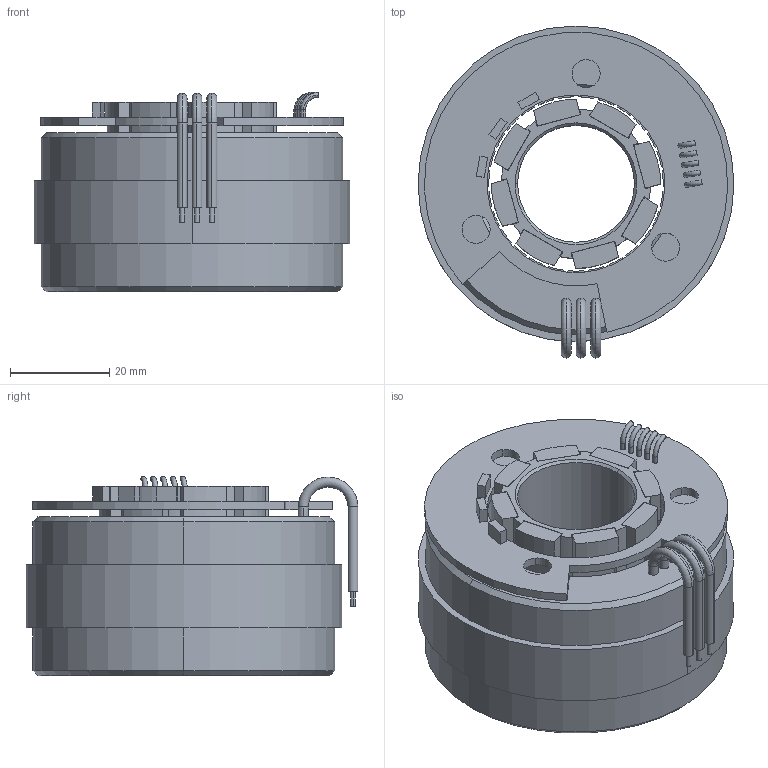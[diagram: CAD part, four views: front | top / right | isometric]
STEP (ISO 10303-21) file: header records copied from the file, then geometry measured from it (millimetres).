
FILE_DESCRIPTION((''),'2;1');
FILE_NAME('K064XXX-XX2_ASM','2010-11-29T',('ska4371'),(''),'PRO/ENGINEER BY PARAMETRIC TECHNOLOGY CORPORATION, 2006300','PRO/ENGINEER BY PARAMETRIC TECHNOLOGY CORPORATION, 2006300','');
FILE_SCHEMA(('CONFIG_CONTROL_DESIGN'));
Length unit declared in the file: millimetre
Products named in the file (13): 10158XXX; 064; PHASE-LEADS; W064XXX-XX2_ASM; 11634000; 10259006; 064XXX-XX2_ASM; 10163012; 10551005_064; 10551006_064; 12171XXX_ASM; 11691000_XXXX; K064XXX-XX2_ASM
Assembly tree (27 placements, depth 4):
  K064XXX-XX2_ASM
    064XXX-XX2_ASM
      W064XXX-XX2_ASM
        10158XXX
        064  x2
        PHASE-LEADS
      11634000
      10259006
    12171XXX_ASM
      10163012
      10551005_064  x8
      10551006_064  x8
    11691000_XXXX
Bounding box: 63.5 x 66.75 x 40.05 mm (x, y, z)
Volume: 59799.7 mm3; surface area: 43460.3 mm2
Topology: 24 solids, 24 shells, 572 faces, 1517 edges, 1004 vertices
Faces by surface type: plane 307, cylinder 237, torus 16, cone 12
Entity records: 15976 total; most frequent: DIRECTION 2897, CARTESIAN_POINT 2751, ORIENTED_EDGE 2658, EDGE_CURVE 1329, AXIS2_PLACEMENT_3D 1026, VERTEX_POINT 880, VECTOR 845, LINE 845
